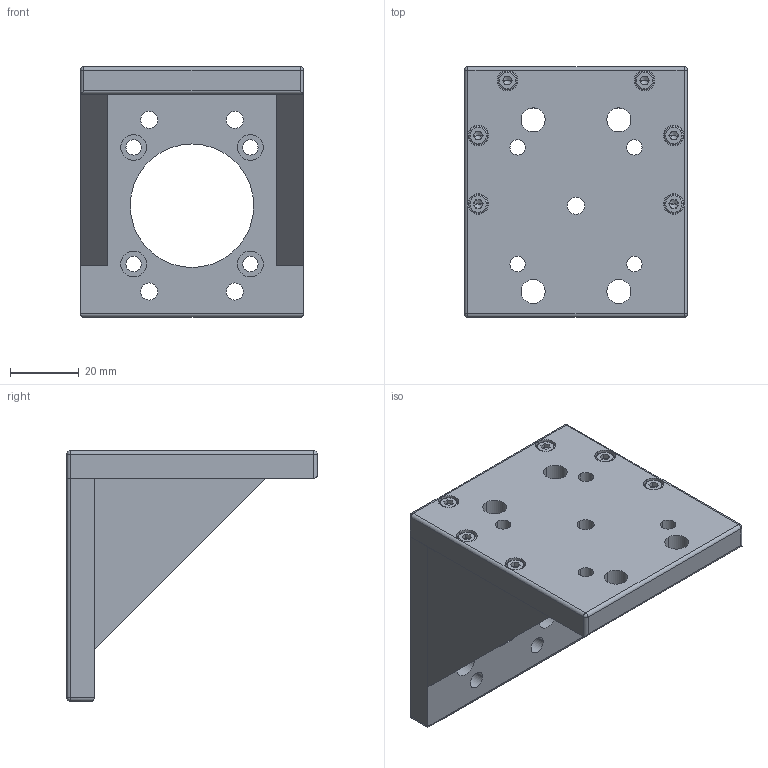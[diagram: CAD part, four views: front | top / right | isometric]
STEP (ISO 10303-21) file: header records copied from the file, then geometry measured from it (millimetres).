
FILE_DESCRIPTION (( 'STEP AP203' ), '1' );
FILE_NAME ('HGMBR4 眻褒假蚾啣.STEP', '2021-05-06T07:33:30', ( '' ), ( '' ), 'SwSTEP 2.0', 'SolidWorks 2020', '' );
FILE_SCHEMA (( 'CONFIG_CONTROL_DESIGN' ));
Length unit declared in the file: millimetre
Products named in the file (5): HGMBR4-1 蕾啣; HGMBR4 眻褒假蚾啣; hexagon socket head cap screws gb_GB_FASTENER_SCREWS_HSHCS M3X5-N; HGMBR4-3 啣踐; HGMBR4-2 菁啣
Assembly tree (14 placements, depth 2):
  HGMBR4 眻褒假蚾啣
    HGMBR4-2 菁啣
    HGMBR4-1 蕾啣
    HGMBR4-3 啣踐  x2
    hexagon socket head cap screws gb_GB_FASTENER_SCREWS_HSHCS M3X5-N  x10
Bounding box: 65 x 73 x 73 mm (x, y, z)
Volume: 78622.9 mm3; surface area: 33471.3 mm2
Topology: 14 solids, 14 shells, 443 faces, 1039 edges, 616 vertices
Faces by surface type: plane 190, cylinder 167, cone 60, torus 20, sphere 6
Entity records: 6687 total; most frequent: DIRECTION 1146, CARTESIAN_POINT 985, ORIENTED_EDGE 932, AXIS2_PLACEMENT_3D 470, EDGE_CURVE 466, VERTEX_POINT 293, EDGE_LOOP 269, CIRCLE 256
